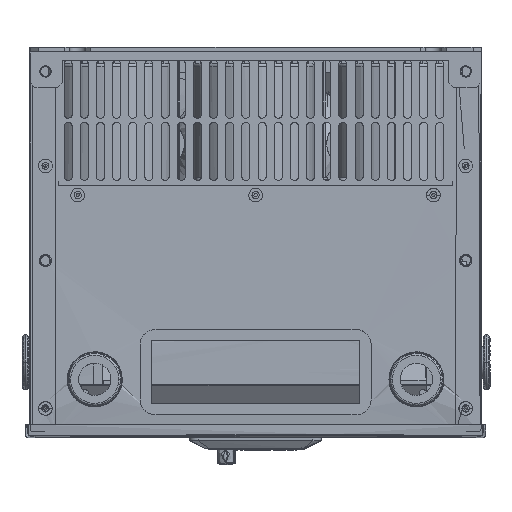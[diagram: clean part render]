
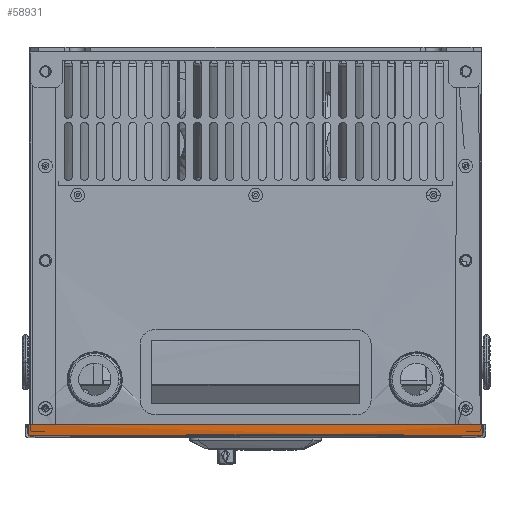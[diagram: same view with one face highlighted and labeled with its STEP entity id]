
A CAD part, front view. The second image highlights one B-rep face of the part: STEP entity #58931.
In plain terms, the highlighted planar face has unit normal (0, -1, 0).
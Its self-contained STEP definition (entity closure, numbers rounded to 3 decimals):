
#3856 = ORIENTED_EDGE ( 'NONE', *, *, #70442, .T. ) ;
#9655 = VERTEX_POINT ( 'NONE', #68785 ) ;
#10778 = EDGE_CURVE ( 'NONE', #22611, #9655, #140474, .T. ) ;
#22611 = VERTEX_POINT ( 'NONE', #113949 ) ;
#22773 = DIRECTION ( 'NONE',  ( 0., -1., 0. ) ) ;
#23536 = PLANE ( 'NONE',  #136785 ) ;
#24304 = VERTEX_POINT ( 'NONE', #139652 ) ;
#28200 = CARTESIAN_POINT ( 'NONE',  ( -140.5, -284., -233.5 ) ) ;
#30282 = CARTESIAN_POINT ( 'NONE',  ( 140.5, -284., -235.5 ) ) ;
#31602 = CARTESIAN_POINT ( 'NONE',  ( -46.833, -284., -233.5 ) ) ;
#39008 = CARTESIAN_POINT ( 'NONE',  ( 46.833, -284., -239.5 ) ) ;
#39803 = CARTESIAN_POINT ( 'NONE',  ( -140.5, -284., -239.5 ) ) ;
#51308 = B_SPLINE_CURVE_WITH_KNOTS ( 'NONE', 3,
 ( #99468, #39008, #100245, #39803 ),
 .UNSPECIFIED., .F., .F.,
 ( 4, 4 ),
 ( 0., 1. ),
 .UNSPECIFIED. ) ;
#53702 = CARTESIAN_POINT ( 'NONE',  ( -140.5, -284., -237.5 ) ) ;
#58931 = ADVANCED_FACE ( 'NONE', ( #84004 ), #23536, .T. ) ;
#63754 = CARTESIAN_POINT ( 'NONE',  ( 140.5, -284., -233.5 ) ) ;
#66780 = ORIENTED_EDGE ( 'NONE', *, *, #130612, .F. ) ;
#68785 = CARTESIAN_POINT ( 'NONE',  ( -140.5, -284., -233.5 ) ) ;
#68974 = DIRECTION ( 'NONE',  ( 0., 0., -1. ) ) ;
#70442 = EDGE_CURVE ( 'NONE', #119497, #9655, #82173, .T. ) ;
#70529 = CARTESIAN_POINT ( 'NONE',  ( 46.833, -284., -233.5 ) ) ;
#75615 = CARTESIAN_POINT ( 'NONE',  ( 140.5, -284., -239.5 ) ) ;
#79269 = ORIENTED_EDGE ( 'NONE', *, *, #114639, .T. ) ;
#82173 = B_SPLINE_CURVE_WITH_KNOTS ( 'NONE', 3,
 ( #155758, #70529, #31602, #106391 ),
 .UNSPECIFIED., .F., .F.,
 ( 4, 4 ),
 ( 0., 1. ),
 .UNSPECIFIED. ) ;
#84004 = FACE_OUTER_BOUND ( 'NONE', #85003, .T. ) ;
#85003 = EDGE_LOOP ( 'NONE', ( #3856, #96382, #66780, #79269 ) ) ;
#88680 = CARTESIAN_POINT ( 'NONE',  ( -140.5, -284., -235.5 ) ) ;
#96382 = ORIENTED_EDGE ( 'NONE', *, *, #10778, .F. ) ;
#99468 = CARTESIAN_POINT ( 'NONE',  ( 140.5, -284., -239.5 ) ) ;
#99856 = CARTESIAN_POINT ( 'NONE',  ( -140.5, -284., -239.5 ) ) ;
#100245 = CARTESIAN_POINT ( 'NONE',  ( -46.833, -284., -239.5 ) ) ;
#106391 = CARTESIAN_POINT ( 'NONE',  ( -140.5, -284., -233.5 ) ) ;
#113949 = CARTESIAN_POINT ( 'NONE',  ( -140.58, -283.052, -240.395 ) ) ;
#114639 = EDGE_CURVE ( 'NONE', #24304, #119497, #130586, .T. ) ;
#119497 = VERTEX_POINT ( 'NONE', #63754 ) ;
#126627 = CARTESIAN_POINT ( 'NONE',  ( 140.5, -284., -233.5 ) ) ;
#130586 = B_SPLINE_CURVE_WITH_KNOTS ( 'NONE', 3,
 ( #75615, #138561, #30282, #126627 ),
 .UNSPECIFIED., .F., .F.,
 ( 4, 4 ),
 ( 0., 1. ),
 .UNSPECIFIED. ) ;
#130612 = EDGE_CURVE ( 'NONE', #24304, #22611, #51308, .T. ) ;
#131843 = CARTESIAN_POINT ( 'NONE',  ( 140.5, -284., -241.5 ) ) ;
#136785 = AXIS2_PLACEMENT_3D ( 'NONE', #131843, #22773, #68974 ) ;
#138561 = CARTESIAN_POINT ( 'NONE',  ( 140.5, -284., -237.5 ) ) ;
#139652 = CARTESIAN_POINT ( 'NONE',  ( 140.58, -283.052, -240.395 ) ) ;
#140474 = B_SPLINE_CURVE_WITH_KNOTS ( 'NONE', 3,
 ( #99856, #53702, #88680, #28200 ),
 .UNSPECIFIED., .F., .F.,
 ( 4, 4 ),
 ( 0., 1. ),
 .UNSPECIFIED. ) ;
#155758 = CARTESIAN_POINT ( 'NONE',  ( 140.5, -284., -233.5 ) ) ;
